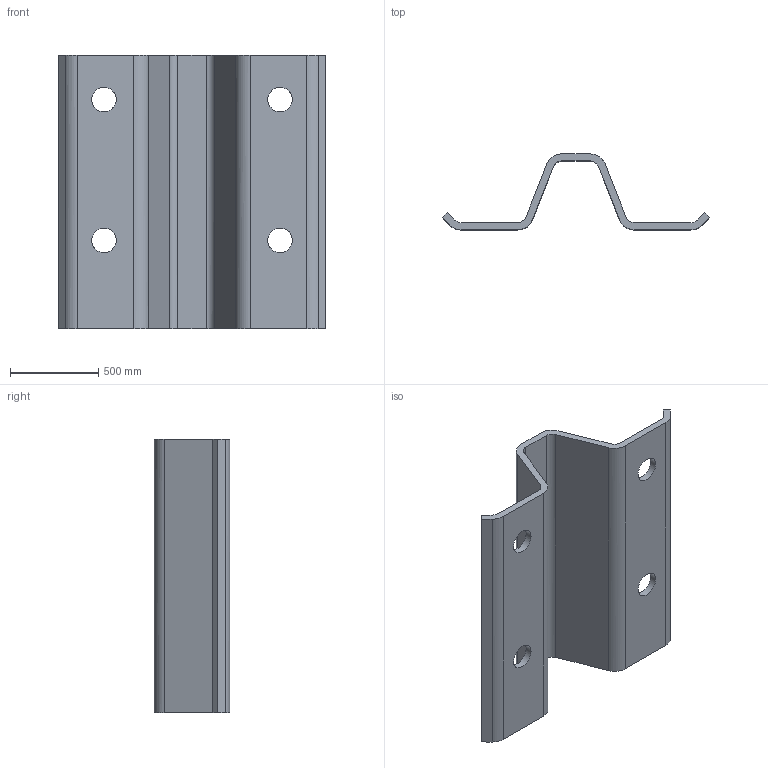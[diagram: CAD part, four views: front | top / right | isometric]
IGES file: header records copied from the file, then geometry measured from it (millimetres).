
Global section: file name: ZC170; native system: Autodesk RealDWG; preprocessor: Autodesk Translation Framework DWG producer (atf_dwg_producer); organization: unknown; date: 20241104.112317; units: centimetre
Bounding box: 1517.2 x 430 x 1550 mm (x, y, z)
Volume: 122667398 mm3; surface area: 6489256.4 mm2
Topology: 1 solids, 1 shells, 34 faces, 104 edges, 72 vertices
Faces by surface type: bspline 34
